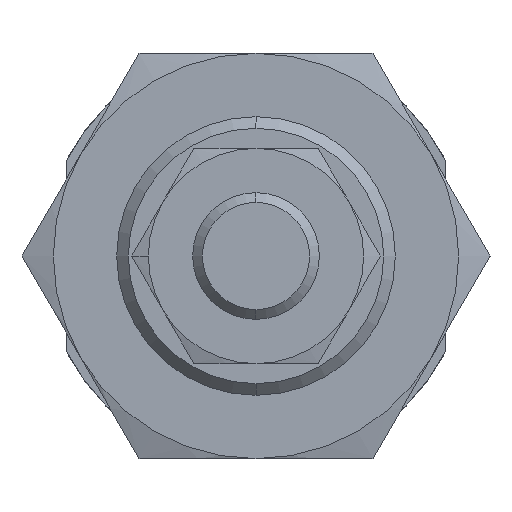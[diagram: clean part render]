
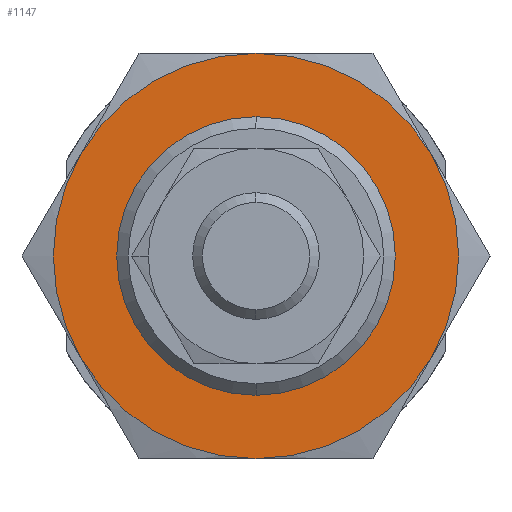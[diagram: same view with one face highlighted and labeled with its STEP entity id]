
A CAD part, left-side view. The second image highlights one B-rep face of the part: STEP entity #1147.
In plain terms, the highlighted planar face has unit normal (-1, 0, 0).
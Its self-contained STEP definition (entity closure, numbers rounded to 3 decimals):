
#60 = EDGE_CURVE ( 'NONE', #4002, #363, #3905, .T. ) ;
#82 = EDGE_LOOP ( 'NONE', ( #230, #3326 ) ) ;
#230 = ORIENTED_EDGE ( 'NONE', *, *, #1750, .T. ) ;
#233 = ORIENTED_EDGE ( 'NONE', *, *, #986, .F. ) ;
#250 = ORIENTED_EDGE ( 'NONE', *, *, #2109, .F. ) ;
#288 = DIRECTION ( 'NONE',  ( 0., 0., -1. ) ) ;
#327 = DIRECTION ( 'NONE',  ( 1., 0., 0. ) ) ;
#337 = DIRECTION ( 'NONE',  ( 1., 0., 0. ) ) ;
#353 = DIRECTION ( 'NONE',  ( 0., 0., -1. ) ) ;
#360 = ORIENTED_EDGE ( 'NONE', *, *, #1970, .F. ) ;
#363 = VERTEX_POINT ( 'NONE', #2152 ) ;
#425 = CARTESIAN_POINT ( 'NONE',  ( -17.5, 0., 11. ) ) ;
#500 = VERTEX_POINT ( 'NONE', #425 ) ;
#553 = DIRECTION ( 'NONE',  ( -1., 0., 0. ) ) ;
#571 = CARTESIAN_POINT ( 'NONE',  ( -17.5, 16., 0. ) ) ;
#671 = AXIS2_PLACEMENT_3D ( 'NONE', #3294, #3965, #353 ) ;
#690 = CIRCLE ( 'NONE', #3381, 16. ) ;
#752 = EDGE_LOOP ( 'NONE', ( #360, #2792, #4213, #233, #2812, #250 ) ) ;
#761 = DIRECTION ( 'NONE',  ( 1., 0., 0. ) ) ;
#986 = EDGE_CURVE ( 'NONE', #2145, #2403, #1015, .T. ) ;
#1015 = CIRCLE ( 'NONE', #3080, 16. ) ;
#1100 = CARTESIAN_POINT ( 'NONE',  ( -17.5, 0., 0. ) ) ;
#1137 = DIRECTION ( 'NONE',  ( 1., 0., 0. ) ) ;
#1146 = DIRECTION ( 'NONE',  ( 0., 0., -1. ) ) ;
#1147 = ADVANCED_FACE ( 'NONE', ( #2200, #3514 ), #3210, .T. ) ;
#1298 = CARTESIAN_POINT ( 'NONE',  ( -17.5, 0., -11. ) ) ;
#1384 = CIRCLE ( 'NONE', #3316, 11. ) ;
#1424 = DIRECTION ( 'NONE',  ( 1., 0., 0. ) ) ;
#1450 = DIRECTION ( 'NONE',  ( 1., 0., 0. ) ) ;
#1750 = EDGE_CURVE ( 'NONE', #500, #3785, #1384, .T. ) ;
#1800 = CARTESIAN_POINT ( 'NONE',  ( -17.5, 0., 0. ) ) ;
#1823 = DIRECTION ( 'NONE',  ( 0., 0., -1. ) ) ;
#1913 = CARTESIAN_POINT ( 'NONE',  ( -17.5, 0., -16. ) ) ;
#1948 = CARTESIAN_POINT ( 'NONE',  ( -17.5, 0., 0. ) ) ;
#1970 = EDGE_CURVE ( 'NONE', #363, #3766, #2225, .T. ) ;
#2008 = DIRECTION ( 'NONE',  ( 0., 0., -1. ) ) ;
#2011 = AXIS2_PLACEMENT_3D ( 'NONE', #3725, #761, #2085 ) ;
#2045 = AXIS2_PLACEMENT_3D ( 'NONE', #4058, #1450, #3736 ) ;
#2085 = DIRECTION ( 'NONE',  ( 0., 0., -1. ) ) ;
#2098 = AXIS2_PLACEMENT_3D ( 'NONE', #3176, #1424, #3152 ) ;
#2109 = EDGE_CURVE ( 'NONE', #3766, #3532, #690, .T. ) ;
#2145 = VERTEX_POINT ( 'NONE', #4112 ) ;
#2152 = CARTESIAN_POINT ( 'NONE',  ( -17.5, 13.856, -8. ) ) ;
#2200 = FACE_OUTER_BOUND ( 'NONE', #752, .T. ) ;
#2225 = CIRCLE ( 'NONE', #2011, 16. ) ;
#2242 = DIRECTION ( 'NONE',  ( 0., 0., 1. ) ) ;
#2403 = VERTEX_POINT ( 'NONE', #4113 ) ;
#2480 = DIRECTION ( 'NONE',  ( 1., 0., 0. ) ) ;
#2569 = CARTESIAN_POINT ( 'NONE',  ( -17.5, 13.856, 8. ) ) ;
#2614 = CIRCLE ( 'NONE', #671, 11. ) ;
#2679 = CIRCLE ( 'NONE', #4204, 16. ) ;
#2792 = ORIENTED_EDGE ( 'NONE', *, *, #60, .F. ) ;
#2812 = ORIENTED_EDGE ( 'NONE', *, *, #4232, .F. ) ;
#3035 = CARTESIAN_POINT ( 'NONE',  ( -17.5, 0., 16. ) ) ;
#3080 = AXIS2_PLACEMENT_3D ( 'NONE', #1100, #2480, #1146 ) ;
#3152 = DIRECTION ( 'NONE',  ( 0., 0., -1. ) ) ;
#3176 = CARTESIAN_POINT ( 'NONE',  ( -17.5, 0., 0. ) ) ;
#3193 = EDGE_CURVE ( 'NONE', #2403, #4002, #3332, .T. ) ;
#3210 = PLANE ( 'NONE',  #4050 ) ;
#3294 = CARTESIAN_POINT ( 'NONE',  ( -17.5, 0., 0. ) ) ;
#3316 = AXIS2_PLACEMENT_3D ( 'NONE', #3615, #327, #288 ) ;
#3326 = ORIENTED_EDGE ( 'NONE', *, *, #3863, .T. ) ;
#3332 = CIRCLE ( 'NONE', #2098, 16. ) ;
#3381 = AXIS2_PLACEMENT_3D ( 'NONE', #1800, #1137, #1823 ) ;
#3514 = FACE_BOUND ( 'NONE', #82, .T. ) ;
#3532 = VERTEX_POINT ( 'NONE', #3035 ) ;
#3615 = CARTESIAN_POINT ( 'NONE',  ( -17.5, 0., 0. ) ) ;
#3725 = CARTESIAN_POINT ( 'NONE',  ( -17.5, 0., 0. ) ) ;
#3736 = DIRECTION ( 'NONE',  ( 0., 0., -1. ) ) ;
#3766 = VERTEX_POINT ( 'NONE', #2569 ) ;
#3785 = VERTEX_POINT ( 'NONE', #1298 ) ;
#3863 = EDGE_CURVE ( 'NONE', #3785, #500, #2614, .T. ) ;
#3905 = CIRCLE ( 'NONE', #2045, 16. ) ;
#3965 = DIRECTION ( 'NONE',  ( 1., 0., 0. ) ) ;
#4002 = VERTEX_POINT ( 'NONE', #1913 ) ;
#4050 = AXIS2_PLACEMENT_3D ( 'NONE', #571, #553, #2242 ) ;
#4058 = CARTESIAN_POINT ( 'NONE',  ( -17.5, 0., 0. ) ) ;
#4112 = CARTESIAN_POINT ( 'NONE',  ( -17.5, -13.856, 8. ) ) ;
#4113 = CARTESIAN_POINT ( 'NONE',  ( -17.5, -13.856, -8. ) ) ;
#4204 = AXIS2_PLACEMENT_3D ( 'NONE', #1948, #337, #2008 ) ;
#4213 = ORIENTED_EDGE ( 'NONE', *, *, #3193, .F. ) ;
#4232 = EDGE_CURVE ( 'NONE', #3532, #2145, #2679, .T. ) ;
